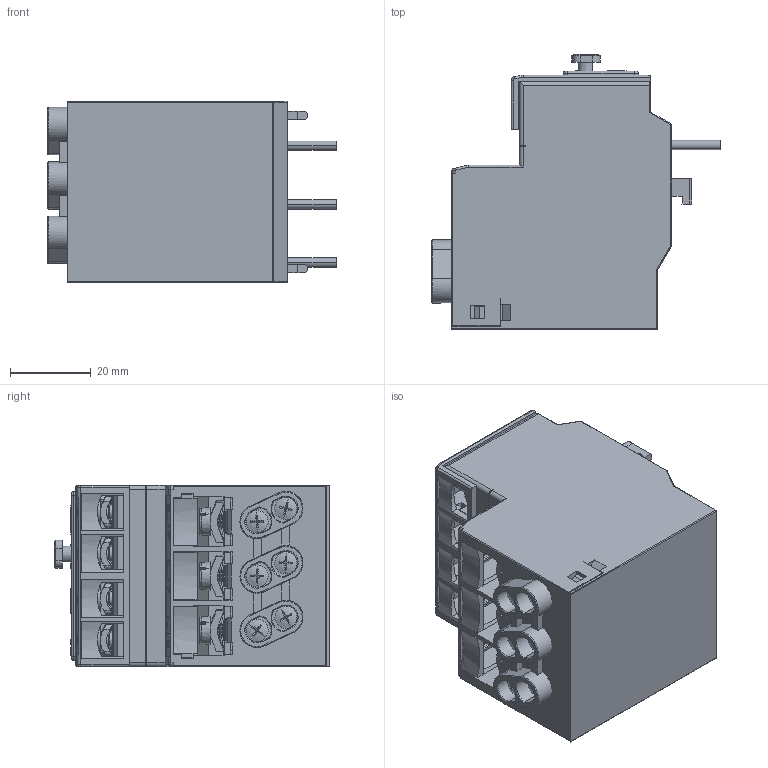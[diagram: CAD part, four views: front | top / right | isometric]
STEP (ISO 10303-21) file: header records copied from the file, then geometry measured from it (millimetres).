
FILE_DESCRIPTION((''),'2;1');
FILE_NAME('20220226YY_SW0003','2022-02-26T16:46:15',('yeyang'),(''),'CREO PARAMETRIC BY PTC INC, 2020044','CREO PARAMETRIC BY PTC INC, 2020044','');
FILE_SCHEMA(('CONFIG_CONTROL_DESIGN','SHAPE_APPEARANCE_LAYERS_GROUPS'));
Products named in the file (1): 20220226YY_SW0003
Bounding box: 71.6 x 68.3 x 45 mm (x, y, z)
Volume: 100041.7 mm3; surface area: 53807.8 mm2
Topology: 3 solids, 3 shells, 3844 faces, 10593 edges, 6802 vertices
Faces by surface type: plane 2506, cylinder 754, cone 200, extrusion 168, torus 109, sphere 77, bspline 30
Entity records: 158465 total; most frequent: CARTESIAN_POINT 35008, ORIENTED_EDGE 21136, DIRECTION 19086, EDGE_CURVE 10568, VECTOR 7918, LINE 7750, VERTEX_POINT 6802, AXIS2_PLACEMENT_3D 5584
